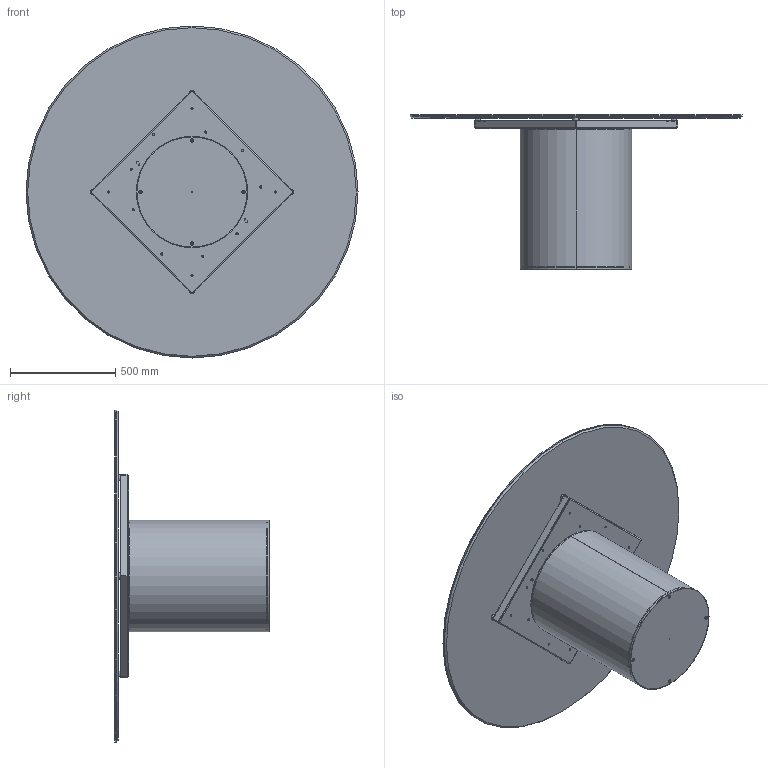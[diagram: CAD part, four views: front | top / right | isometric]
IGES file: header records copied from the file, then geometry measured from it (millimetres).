
Start section: SolidWorks IGES file using analytic representation for surfaces
Global section: file name: Y:\eforma\TECNICO\SOLIDWORKS\E-FORMA\1-TAVOLI\CILINDRO\02 parts\CI07C.IGS; native system: SolidWorks 2022; preprocessor: SolidWorks 2022; author: eforma.tech; date: 240808.090207; units: millimetre
Bounding box: 1580 x 736 x 1580 mm (x, y, z)
Volume: 38533714.8 mm3; surface area: 12042917.9 mm2
Topology: 24 solids, 24 shells, 710 faces, 1792 edges, 1112 vertices
Faces by surface type: revolution 376, plane 334
